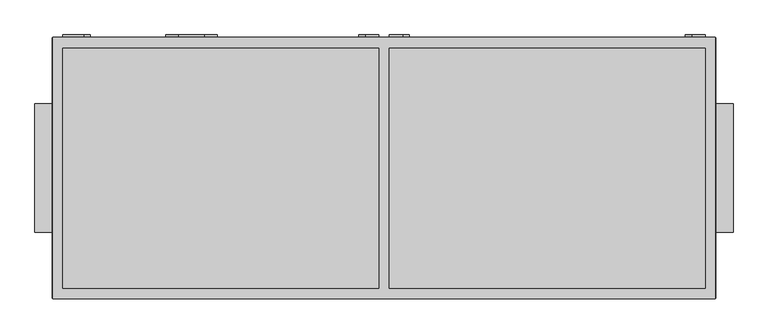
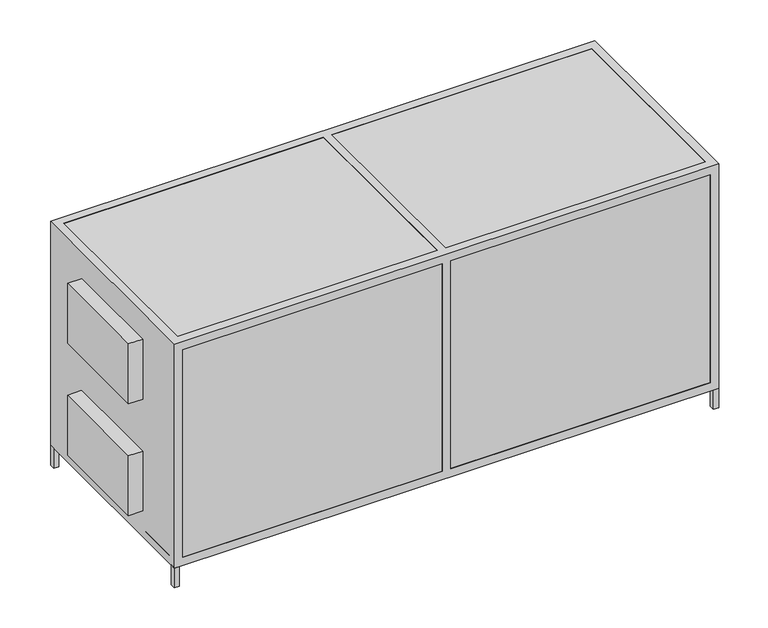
"""IFC4 building model written with IfcOpenShell, lengths in millimetres: proxy geometry, AVS 2200...3800-S-RC(RG)-L : AVS 3800-S-RC-L."""

from ifc_helpers import new_model, si_unit, point, frame, frame_2d, origin, origin_with_axes, place, context, project, spatial, polyline, circle_curve, trimmed, segment, composite_curve, outline, extrude, faceted_brep, source, transform, mapped, element, save


def mechanical_equipment_8b9c5347(model_context):
    return source(origin(), model_context, "Body", "SolidModel", [
        extrude(outline(polyline([(1265.0, 507.0), (1290.0, 507.0), (1290.0, 482.0), (1265.0, 482.0), (1265.0, 507.0)])), origin_with_axes(), (0.0, 0.0, 1.0), 100.0),
        extrude(outline(polyline([(1265.0, -507.0), (1265.0, -482.0), (1290.0, -482.0), (1290.0, -507.0), (1265.0, -507.0)])), origin_with_axes(), (0.0, 0.0, 1.0), 100.0),
        extrude(outline(polyline([(-1290.0, 482.0), (-1290.0, 507.0), (-1265.0, 507.0), (-1265.0, 482.0), (-1290.0, 482.0)])), origin_with_axes(), (0.0, 0.0, 1.0), 100.0),
        extrude(outline(polyline([(-1290.0, -482.0), (-1265.0, -482.0), (-1265.0, -507.0), (-1290.0, -507.0), (-1290.0, -482.0)])), origin_with_axes(), (0.0, 0.0, 1.0), 100.0),
        faceted_brep([(1289.0, 508.0, 1222.0), (-1289.0, 508.0, 1222.0), (-1289.0, -508.0, 1222.0), (1289.0, -508.0, 1222.0), (-1250.0, 467.0, 1222.0), (-20.0, 467.0, 1222.0), (-20.0, -467.0, 1222.0), (-1250.0, -467.0, 1222.0), (1250.0, 467.0, 1222.0), (1250.0, -467.0, 1222.0), (20.0, -467.0, 1222.0), (20.0, 467.0, 1222.0), (1289.0, 508.0, 99.0), (1289.0, -508.0, 99.0), (-1289.0, -508.0, 99.0), (-1289.0, 508.0, 99.0), (-20.0, 467.0, 99.0), (-1250.0, 467.0, 99.0), (-1250.0, -467.0, 99.0), (-20.0, -467.0, 99.0), (1250.0, -467.0, 99.0), (1250.0, 467.0, 99.0), (20.0, 467.0, 99.0), (20.0, -467.0, 99.0), (-20.0, 508.0, 1181.0), (-1250.0, 508.0, 1181.0), (-1250.0, 508.0, 140.0), (-20.0, 508.0, 140.0), (1250.0, 508.0, 140.0), (1250.0, 508.0, 1181.0), (20.0, 508.0, 1181.0), (20.0, 508.0, 140.0), (-1289.0, -467.0, 1181.0), (-1289.0, -467.0, 140.0), (-1289.0, 467.0, 140.0), (-1289.0, 467.0, 1181.0), (-1250.0, -508.0, 1181.0), (-20.0, -508.0, 1181.0), (-20.0, -508.0, 140.0), (-1250.0, -508.0, 140.0), (1250.0, -508.0, 1181.0), (1250.0, -508.0, 140.0), (20.0, -508.0, 140.0), (20.0, -508.0, 1181.0), (1289.0, -467.0, 140.0), (1289.0, -467.0, 1181.0), (1289.0, 467.0, 1181.0), (1289.0, 467.0, 140.0), (-1250.0, 467.0, 1181.0), (-20.0, 467.0, 1181.0), (-20.0, 467.0, 140.0), (-1250.0, 467.0, 140.0), (-20.0, -467.0, 1181.0), (-1250.0, -467.0, 1181.0), (-1250.0, -467.0, 140.0), (-20.0, -467.0, 140.0), (1250.0, 467.0, 1181.0), (1250.0, -467.0, 1181.0), (1250.0, -467.0, 140.0), (1250.0, 467.0, 140.0), (20.0, 467.0, 1181.0), (20.0, -467.0, 1181.0), (20.0, -467.0, 140.0), (20.0, 467.0, 140.0)], [[[0, 1, 2, 3], [4, 5, 6, 7], [8, 9, 10, 11]], [[12, 13, 14, 15], [16, 17, 18, 19], [20, 21, 22, 23]], [[1, 0, 12, 15], [24, 25, 26, 27], [28, 29, 30, 31]], [[2, 1, 15, 14], [32, 33, 34, 35]], [[3, 2, 14, 13], [36, 37, 38, 39], [40, 41, 42, 43]], [[0, 3, 13, 12], [44, 45, 46, 47]], [[5, 4, 48, 49]], [[17, 16, 50, 51]], [[7, 6, 52, 53]], [[19, 18, 54, 55]], [[9, 8, 56, 57]], [[21, 20, 58, 59]], [[40, 57, 58, 41]], [[56, 29, 28, 59]], [[35, 48, 53, 32]], [[45, 57, 56, 46]], [[49, 60, 61, 52]], [[51, 34, 33, 54]], [[47, 59, 58, 44]], [[55, 62, 63, 50]], [[36, 53, 52, 37]], [[24, 49, 48, 25]], [[54, 39, 38, 55]], [[50, 27, 26, 51]], [[32, 53, 54, 33]], [[52, 61, 62, 55]], [[44, 58, 57, 45]], [[48, 35, 34, 51]], [[60, 49, 50, 63]], [[59, 47, 46, 56]], [[4, 7, 53, 48]], [[18, 17, 51, 54]], [[53, 36, 39, 54]], [[25, 48, 51, 26]], [[6, 5, 49, 52]], [[16, 19, 55, 50]], [[37, 52, 55, 38]], [[49, 24, 27, 50]], [[8, 11, 60, 56]], [[22, 21, 59, 63]], [[11, 10, 61, 60]], [[23, 22, 63, 62]], [[30, 60, 63, 31]], [[61, 43, 42, 62]], [[10, 9, 57, 61]], [[20, 23, 62, 58]], [[57, 40, 43, 61]], [[29, 56, 60, 30]], [[41, 58, 62, 42]], [[59, 28, 31, 63]]]),
        extrude(outline(polyline([(-1290.0, 507.0), (1290.0, 507.0), (1290.0, -507.0), (-1290.0, -507.0), (-1290.0, 507.0)])), frame((0.0, 0.0, 100.0), z_axis=(0.0, 0.0, 1.0), x_axis=(1.0, 0.0, 0.0)), (0.0, 0.0, 1.0), 1121.0),
        extrude(outline(composite_curve([segment(polyline([(965.75, -1167.2895396), (965.75, -1250.0), (915.75, -1250.0), (915.75, -1167.2895396)]), True, "CONTINUOUS"), segment(trimmed(circle_curve(frame_2d((940.75, -1167.2895396)), 25.0), [point((915.75, -1167.2895396))], [point((965.75, -1167.2895396))], False, "CARTESIAN"), True, "CONTINUOUS")], self_intersect=False)), frame((0.0, 507.0, 0.0), z_axis=(0.0, 1.0, 0.0), x_axis=(0.0, 0.0, 1.0)), (0.0, 0.0, 1.0), 11.0),
        extrude(outline(composite_curve([segment(polyline([(405.25, -1167.2895396), (405.25, -1250.0), (355.25, -1250.0), (355.25, -1167.2895396)]), True, "CONTINUOUS"), segment(trimmed(circle_curve(frame_2d((380.25, -1167.2895396)), 25.0), [point((355.25, -1167.2895396))], [point((405.25, -1167.2895396))], False, "CARTESIAN"), True, "CONTINUOUS")], self_intersect=False)), frame((0.0, 507.0, 0.0), z_axis=(0.0, 1.0, 0.0), x_axis=(0.0, 0.0, 1.0)), (0.0, 0.0, 1.0), 11.0),
        extrude(outline(composite_curve([segment(trimmed(circle_curve(frame_2d((870.75, -72.7104604)), 25.0), [point((895.75, -72.7104604))], [point((845.75, -72.7104604))], False, "CARTESIAN"), True, "CONTINUOUS"), segment(polyline([(845.75, -72.7104604), (845.75, -20.0), (895.75, -20.0), (895.75, -72.7104604)]), True, "CONTINUOUS")], self_intersect=False)), frame((0.0, 507.0, 0.0), z_axis=(0.0, 1.0, 0.0), x_axis=(0.0, 0.0, 1.0)), (0.0, 0.0, 1.0), 11.0),
        extrude(outline(composite_curve([segment(polyline([(425.25, -72.7104604), (425.25, -20.0), (475.25, -20.0), (475.25, -72.7104604)]), True, "CONTINUOUS"), segment(trimmed(circle_curve(frame_2d((450.25, -72.7104604)), 25.0), [point((475.25, -72.7104604))], [point((425.25, -72.7104604))], False, "CARTESIAN"), True, "CONTINUOUS")], self_intersect=False)), frame((0.0, 507.0, 0.0), z_axis=(0.0, 1.0, 0.0), x_axis=(0.0, 0.0, 1.0)), (0.0, 0.0, 1.0), 11.0),
        extrude(outline(composite_curve([segment(trimmed(circle_curve(frame_2d((1090.75, 1197.2895396)), 25.0), [point((1115.75, 1197.2895396))], [point((1065.75, 1197.2895396))], False, "CARTESIAN"), True, "CONTINUOUS"), segment(polyline([(1065.75, 1197.2895396), (1065.75, 1250.0), (1115.75, 1250.0), (1115.75, 1197.2895396)]), True, "CONTINUOUS")], self_intersect=False)), frame((0.0, 507.0, 0.0), z_axis=(0.0, 1.0, 0.0), x_axis=(0.0, 0.0, 1.0)), (0.0, 0.0, 1.0), 11.0),
        extrude(outline(composite_curve([segment(polyline([(205.25, 1197.2895396), (205.25, 1250.0), (255.25, 1250.0), (255.25, 1197.2895396)]), True, "CONTINUOUS"), segment(trimmed(circle_curve(frame_2d((230.25, 1197.2895396)), 25.0), [point((255.25, 1197.2895396))], [point((205.25, 1197.2895396))], False, "CARTESIAN"), True, "CONTINUOUS")], self_intersect=False)), frame((0.0, 507.0, 0.0), z_axis=(0.0, 1.0, 0.0), x_axis=(0.0, 0.0, 1.0)), (0.0, 0.0, 1.0), 11.0),
        extrude(outline(composite_curve([segment(polyline([(1015.75, 72.7104604), (1015.75, 20.0), (965.75, 20.0), (965.75, 72.7104604)]), True, "CONTINUOUS"), segment(trimmed(circle_curve(frame_2d((990.75, 72.7104604)), 25.0), [point((965.75, 72.7104604))], [point((1015.75, 72.7104604))], False, "CARTESIAN"), True, "CONTINUOUS")], self_intersect=False)), frame((0.0, 507.0, 0.0), z_axis=(0.0, 1.0, 0.0), x_axis=(0.0, 0.0, 1.0)), (0.0, 0.0, 1.0), 11.0),
        extrude(outline(composite_curve([segment(trimmed(circle_curve(frame_2d((330.25, 72.7104604)), 25.0), [point((305.25, 72.7104604))], [point((355.25, 72.7104604))], False, "CARTESIAN"), True, "CONTINUOUS"), segment(polyline([(355.25, 72.7104604), (355.25, 20.0), (305.25, 20.0), (305.25, 72.7104604)]), True, "CONTINUOUS")], self_intersect=False)), frame((0.0, 507.0, 0.0), z_axis=(0.0, 1.0, 0.0), x_axis=(0.0, 0.0, 1.0)), (0.0, 0.0, 1.0), 11.0),
        extrude(outline(composite_curve([segment(polyline([(1064.7031077, -698.4249776), (1064.7031077, -798.4249776)]), True, "CONTINUOUS"), segment(trimmed(circle_curve(frame_2d((1014.7031077, -798.4249776)), 50.0), [point((1064.7031077, -798.4249776))], [point((964.7031077, -798.4249776))], False, "CARTESIAN"), True, "CONTINUOUS"), segment(polyline([(964.7031077, -798.4249776), (964.7031077, -698.4249776)]), True, "CONTINUOUS"), segment(trimmed(circle_curve(frame_2d((1014.7031077, -698.4249776)), 50.0), [point((964.7031077, -698.4249776))], [point((1064.7031077, -698.4249776))], False, "CARTESIAN"), True, "CONTINUOUS")], self_intersect=False)), frame((0.0, 507.0, 0.0), z_axis=(0.0, 1.0, 0.0), x_axis=(0.0, 0.0, 1.0)), (0.0, 0.0, 1.0), 11.0),
        extrude(outline(polyline([(-1358.0, -250.0), (-1358.0, 250.0), (-1290.0, 250.0), (-1290.0, -250.0), (-1358.0, -250.0)])), frame((0.0, 0.0, 790.75), z_axis=(0.0, 0.0, 1.0), x_axis=(1.0, 0.0, 0.0)), (0.0, 0.0, 1.0), 300.0),
        extrude(outline(polyline([(-1358.0, -250.0), (-1358.0, 250.0), (-1290.0, 250.0), (-1290.0, -250.0), (-1358.0, -250.0)])), frame((0.0, 0.0, 230.25), z_axis=(0.0, 0.0, 1.0), x_axis=(1.0, 0.0, 0.0)), (0.0, 0.0, 1.0), 300.0),
        extrude(outline(polyline([(1358.0, 250.0), (1358.0, -250.0), (1290.0, -250.0), (1290.0, 250.0), (1358.0, 250.0)])), frame((0.0, 0.0, 790.75), z_axis=(0.0, 0.0, 1.0), x_axis=(1.0, 0.0, 0.0)), (0.0, 0.0, 1.0), 300.0),
        extrude(outline(polyline([(1358.0, 250.0), (1358.0, -250.0), (1290.0, -250.0), (1290.0, 250.0), (1358.0, 250.0)])), frame((0.0, 0.0, 230.25), z_axis=(0.0, 0.0, 1.0), x_axis=(1.0, 0.0, 0.0)), (0.0, 0.0, 1.0), 300.0),
    ])


if __name__ == "__main__":
    model = new_model("IFC4")
    model_context = context("Model", 3, world=origin())
    ifc_project = project(units=[si_unit("LENGTHUNIT", "METRE", prefix="MILLI")], contexts=[model_context])
    site = spatial("IfcSite", under=ifc_project)
    building = spatial("IfcBuilding", under=site)
    placement = place(None, origin())
    mechanical_equipment_shape = mechanical_equipment_8b9c5347(model_context)
    element("IfcBuildingElementProxy", 1, Name="AVS 2200...3800-S-RC(RG)-L : AVS 3800-S-RC-L", ObjectType="AVS 2200...3800-S-RC(RG)-L : AVS 3800-S-RC-L", at=placement, inside=building, context=model_context, shape_type="MappedRepresentation", body=[
        mapped(mechanical_equipment_shape, transform((0.0, 0.0, 0.0), x_axis=(1.0, 0.0, 0.0), y_axis=(0.0, 1.0, 0.0), z_axis=(0.0, 0.0, 1.0))),
    ])
    save(model, "model.ifc")
